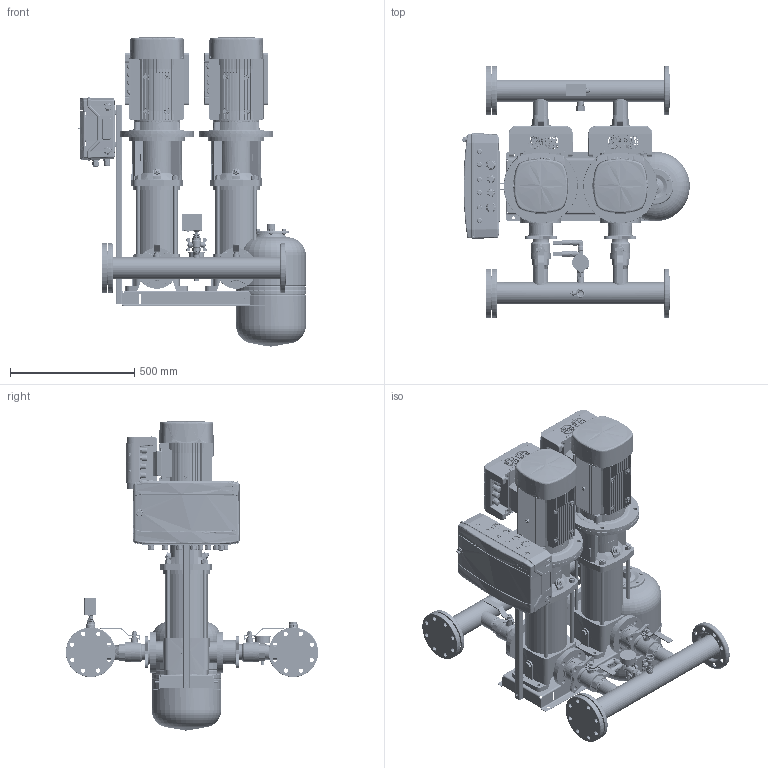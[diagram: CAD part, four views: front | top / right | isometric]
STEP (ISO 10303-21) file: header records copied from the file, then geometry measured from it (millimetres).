
FILE_DESCRIPTION(('CATIA V5 STEP Exchange','CAx-IF Rec.Pracs.--- Model Styling and Organization---1.4--- 2014-01-23','CAx-IF Rec.Pracs.---3D Tessellated Data Validation Properties---0.5---2014-09-14'),'2;1');
FILE_NAME('C:\Users\78432\YandexDisk\Drawings and 3D\3D Hydro Booster\Hydro-ME 3D\Hydro Models\Hydro ME 2 CRV15_20-xx (DIN BV)\Hydro ME 2 CRVE15-6 (DIN BV).stp','2023-09-20T12:29:13+00:00',('none'),('none'),'CATIA Version 5-6 Release 2019 SP6','CATIA V5 STEP AP242 v1','none');
FILE_SCHEMA(('AP242_MANAGED_MODEL_BASED_3D_ENGINEERING_MIM_LF {1 0 10303 442 1 1 4}'));
Length unit declared in the file: millimetre
Products named in the file (44): Hydro ME 2 CRVE15-6 (DIN BV); 92051008; CRV15-6 set (DIN bv); CRV 15-6_A_DIN_5.5kW; Base; Sleeve; Pumphead; Staybolt.1; Staybolt.2; Staybolt.3; Staybolt.4; Plug; AirVent; Motor; 00id2584; 92802785; 99273085; SAJ PDH30 4-7,5kW; 97941445; 405801; 91040270; 91070073; 99110037; 97941482; 00GW4890; Holder and CP 18mod; 92878909; Control ME (18mod); 2 sensors + manometer cpl.; manometr 16 bar; RPD-I-G1_2; 9021-01; 2070 1/2-1/2; _2020 1/2-1/2; 98594078; Tank 24L cpl.; DN20_FF_BF_47.300.20; WAV-24(D140 1''); 9021-03; Relay cpl.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
Assembly tree (54 placements, depth 4):
  Hydro ME 2 CRVE15-6 (DIN BV)
    92051008
    CRV15-6 set (DIN bv)  x2
      CRV 15-6_A_DIN_5.5kW
        Base
        Sleeve
        Pumphead
        Staybolt.1
        Staybolt.2
        Staybolt.3
        Staybolt.4
        Plug
        AirVent
        Motor
      00id2584
      92802785
      99273085
      SAJ PDH30 4-7,5kW
    97941445  x2
      405801
      91040270
      91070073
      99110037
      97941482
    00GW4890  x2
    Holder and CP 18mod
      92878909
      Control ME (18mod)
    2 sensors + manometer cpl.
      manometr 16 bar
      RPD-I-G1_2  x2
      9021-01
      2070 1/2-1/2
      _2020 1/2-1/2
      98594078
    Tank 24L cpl.
      DN20_FF_BF_47.300.20
      9021-03
    Relay cpl.
      Relay RD-2R
      DN20_FF_BF_47.300.20
      2530 3/4-1/2
      _2530 1/2-1/4
    91078139
  WAV-24(D140 1'')
Bounding box: 916.82 x 1016.5 x 1251.77 mm (x, y, z)
Volume: 97698671.4 mm3; surface area: 9303203.2 mm2
Topology: 232 solids, 260 shells, 24099 faces, 79030 edges, 56194 vertices
Faces by surface type: plane 10008, cylinder 6441, bspline 5360, cone 1647, torus 478, sphere 165
Entity records: 686615 total; most frequent: CARTESIAN_POINT 355801, ORIENTED_EDGE 86419, EDGE_CURVE 43750, DIRECTION 38086, VERTEX_POINT 30079, B_SPLINE_CURVE_WITH_KNOTS 18536, VECTOR 17937, LINE 17937
